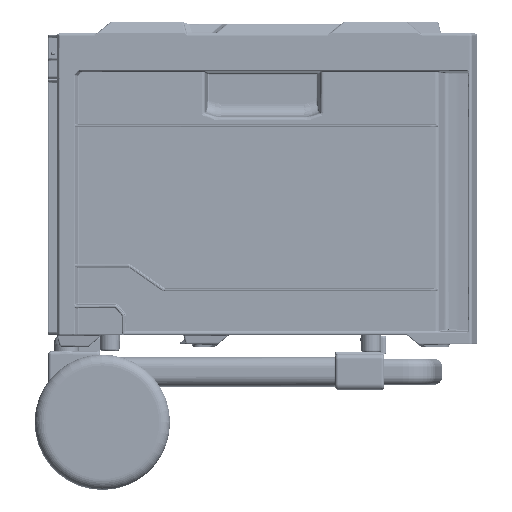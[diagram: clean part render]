
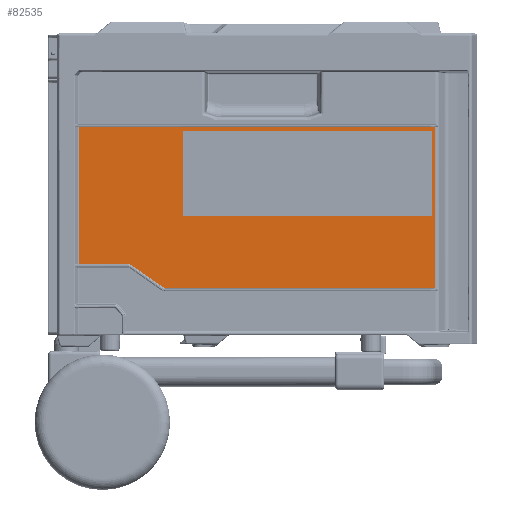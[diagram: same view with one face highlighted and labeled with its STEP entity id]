
A CAD part, front view. The second image highlights one B-rep face of the part: STEP entity #82535.
In plain terms, the highlighted planar face has unit normal (0, -1, 0).
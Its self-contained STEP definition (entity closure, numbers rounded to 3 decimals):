
#57322=FACE_BOUND('',#116916,.T.);
#57323=FACE_BOUND('',#116917,.T.);
#58401=PLANE('',#324073);
#75278=CIRCLE('',#324071,0.5);
#75279=CIRCLE('',#324072,0.5);
#82535=ADVANCED_FACE('',(#57322,#57323),#58401,.T.);
#116916=EDGE_LOOP('',(#141051,#141052,#141053,#141054,#141055,#141056));
#116917=EDGE_LOOP('',(#141057,#141058,#141059,#141060,#141061,#141062,#141063,
#141064));
#141051=ORIENTED_EDGE('',*,*,#235621,.T.);
#141052=ORIENTED_EDGE('',*,*,#235622,.T.);
#141053=ORIENTED_EDGE('',*,*,#235623,.T.);
#141054=ORIENTED_EDGE('',*,*,#235624,.T.);
#141055=ORIENTED_EDGE('',*,*,#235625,.T.);
#141056=ORIENTED_EDGE('',*,*,#235626,.T.);
#141057=ORIENTED_EDGE('',*,*,#235627,.T.);
#141058=ORIENTED_EDGE('',*,*,#235628,.T.);
#141059=ORIENTED_EDGE('',*,*,#235629,.T.);
#141060=ORIENTED_EDGE('',*,*,#235630,.T.);
#141061=ORIENTED_EDGE('',*,*,#235631,.T.);
#141062=ORIENTED_EDGE('',*,*,#235632,.T.);
#141063=ORIENTED_EDGE('',*,*,#235120,.T.);
#141064=ORIENTED_EDGE('',*,*,#235633,.T.);
#210834=VERTEX_POINT('',#434924);
#210835=VERTEX_POINT('',#434925);
#211142=VERTEX_POINT('',#437143);
#211143=VERTEX_POINT('',#437144);
#211144=VERTEX_POINT('',#437146);
#211145=VERTEX_POINT('',#437148);
#211146=VERTEX_POINT('',#437150);
#211147=VERTEX_POINT('',#437152);
#211148=VERTEX_POINT('',#437155);
#211149=VERTEX_POINT('',#437156);
#211150=VERTEX_POINT('',#437158);
#211151=VERTEX_POINT('',#437163);
#211152=VERTEX_POINT('',#437165);
#211153=VERTEX_POINT('',#437170);
#235120=EDGE_CURVE('',#210834,#210835,#295436,.T.);
#235621=EDGE_CURVE('',#211142,#211143,#295643,.T.);
#235622=EDGE_CURVE('',#211143,#211144,#295644,.T.);
#235623=EDGE_CURVE('',#211144,#211145,#295645,.T.);
#235624=EDGE_CURVE('',#211145,#211146,#75278,.T.);
#235625=EDGE_CURVE('',#211146,#211147,#295646,.T.);
#235626=EDGE_CURVE('',#211147,#211142,#75279,.T.);
#235627=EDGE_CURVE('',#211148,#211149,#295647,.T.);
#235628=EDGE_CURVE('',#211149,#211150,#295648,.T.);
#235629=EDGE_CURVE('',#211150,#211151,#271654,.T.);
#235630=EDGE_CURVE('',#211151,#211152,#295649,.T.);
#235631=EDGE_CURVE('',#211152,#211153,#271655,.T.);
#235632=EDGE_CURVE('',#211153,#210834,#295650,.T.);
#235633=EDGE_CURVE('',#210835,#211148,#295651,.T.);
#271654=B_SPLINE_CURVE_WITH_KNOTS('',3,(#437159,#437160,#437161,#437162),
 .UNSPECIFIED.,.F.,.F.,(4,4),(0.,1.),.UNSPECIFIED.);
#271655=B_SPLINE_CURVE_WITH_KNOTS('',3,(#437166,#437167,#437168,#437169),
 .UNSPECIFIED.,.F.,.F.,(4,4),(0.,1.),.UNSPECIFIED.);
#295436=LINE('',#434923,#309168);
#295643=LINE('',#437142,#309375);
#295644=LINE('',#437145,#309376);
#295645=LINE('',#437147,#309377);
#295646=LINE('',#437151,#309378);
#295647=LINE('',#437154,#309379);
#295648=LINE('',#437157,#309380);
#295649=LINE('',#437164,#309381);
#295650=LINE('',#437171,#309382);
#295651=LINE('',#437172,#309383);
#309168=VECTOR('',#349233,1.);
#309375=VECTOR('',#349938,1.);
#309376=VECTOR('',#349939,1.);
#309377=VECTOR('',#349940,1.);
#309378=VECTOR('',#349943,1.);
#309379=VECTOR('',#349946,1.);
#309380=VECTOR('',#349947,1.);
#309381=VECTOR('',#349948,1.);
#309382=VECTOR('',#349949,1.);
#309383=VECTOR('',#349950,1.);
#324071=AXIS2_PLACEMENT_3D('',#437149,#349941,#349942);
#324072=AXIS2_PLACEMENT_3D('',#437153,#349944,#349945);
#324073=AXIS2_PLACEMENT_3D('',#437173,#349951,#349952);
#349233=DIRECTION('',(0.,0.,1.));
#349938=DIRECTION('',(-1.,0.,0.));
#349939=DIRECTION('',(0.,0.,1.));
#349940=DIRECTION('',(1.,0.,0.));
#349941=DIRECTION('',(0.,1.,0.));
#349942=DIRECTION('',(0.,0.,-1.));
#349943=DIRECTION('',(0.,0.,-1.));
#349944=DIRECTION('',(0.,1.,0.));
#349945=DIRECTION('',(0.,0.,-1.));
#349946=DIRECTION('',(0.,0.,-1.));
#349947=DIRECTION('',(1.,0.,0.));
#349948=DIRECTION('',(0.819,0.,-0.574));
#349949=DIRECTION('',(1.,0.,0.));
#349950=DIRECTION('',(-1.,0.,0.));
#349951=DIRECTION('',(0.,-1.,0.));
#349952=DIRECTION('',(0.,0.,-1.));
#434923=CARTESIAN_POINT('',(76.894,-485.422,-250.969));
#434924=CARTESIAN_POINT('',(76.894,-485.422,-210.382));
#434925=CARTESIAN_POINT('',(76.894,-485.422,-62.318));
#437142=CARTESIAN_POINT('',(-40.506,-485.422,-144.2));
#437143=CARTESIAN_POINT('',(73.994,-485.422,-144.2));
#437144=CARTESIAN_POINT('',(-155.506,-485.422,-144.2));
#437145=CARTESIAN_POINT('',(-155.506,-485.422,-104.7));
#437146=CARTESIAN_POINT('',(-155.506,-485.422,-65.2));
#437147=CARTESIAN_POINT('',(-40.506,-485.422,-65.2));
#437148=CARTESIAN_POINT('',(73.994,-485.422,-65.2));
#437149=CARTESIAN_POINT('',(73.994,-485.422,-65.7));
#437150=CARTESIAN_POINT('',(74.494,-485.422,-65.7));
#437151=CARTESIAN_POINT('',(74.494,-485.422,-104.7));
#437152=CARTESIAN_POINT('',(74.494,-485.422,-143.7));
#437153=CARTESIAN_POINT('',(73.994,-485.422,-143.7));
#437154=CARTESIAN_POINT('',(-251.829,-485.422,0.));
#437155=CARTESIAN_POINT('',(-251.829,-485.422,-62.318));
#437156=CARTESIAN_POINT('',(-251.829,-485.422,-188.382));
#437157=CARTESIAN_POINT('',(-251.829,-485.422,-188.382));
#437158=CARTESIAN_POINT('',(-206.775,-485.422,-188.382));
#437159=CARTESIAN_POINT('',(-206.775,-485.422,-188.382));
#437160=CARTESIAN_POINT('',(-205.246,-485.422,-188.382));
#437161=CARTESIAN_POINT('',(-203.729,-485.422,-188.86));
#437162=CARTESIAN_POINT('',(-202.475,-485.422,-189.738));
#437163=CARTESIAN_POINT('',(-202.475,-485.422,-189.738));
#437164=CARTESIAN_POINT('',(-202.478,-485.422,-189.736));
#437165=CARTESIAN_POINT('',(-174.154,-485.422,-209.568));
#437166=CARTESIAN_POINT('',(-174.154,-485.422,-209.568));
#437167=CARTESIAN_POINT('',(-173.398,-485.422,-210.098));
#437168=CARTESIAN_POINT('',(-172.497,-485.422,-210.382));
#437169=CARTESIAN_POINT('',(-171.574,-485.422,-210.382));
#437170=CARTESIAN_POINT('',(-171.574,-485.422,-210.382));
#437171=CARTESIAN_POINT('',(-171.57,-485.422,-210.382));
#437172=CARTESIAN_POINT('',(76.894,-485.422,-62.318));
#437173=CARTESIAN_POINT('',(-279.922,-485.422,0.));
